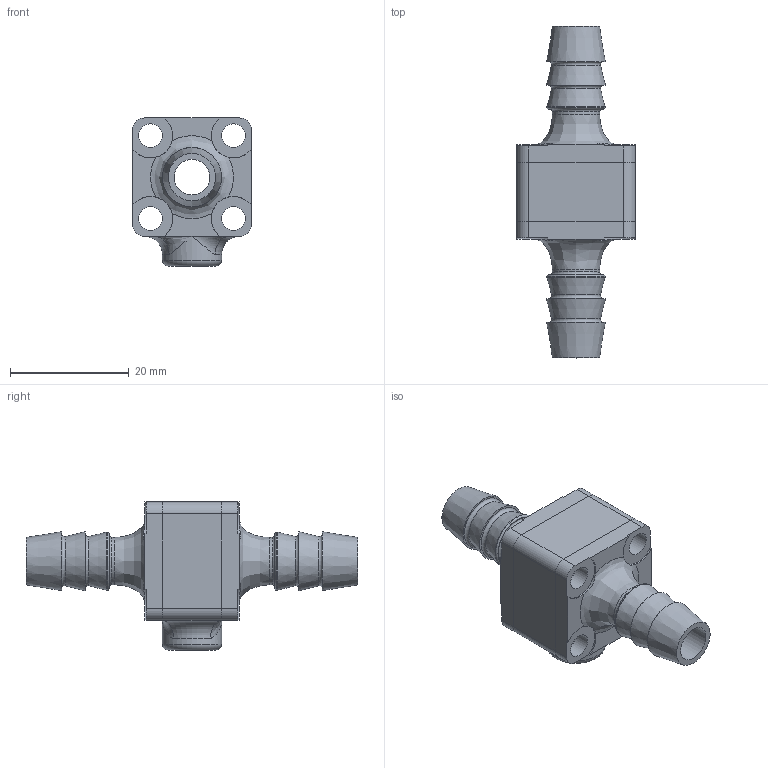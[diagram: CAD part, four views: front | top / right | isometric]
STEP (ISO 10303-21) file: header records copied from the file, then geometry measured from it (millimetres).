
FILE_DESCRIPTION(('HOOPS Exchange Step'),'2;1');
FILE_NAME('/private/var/mobile/Containers/Data/Application/6A221F3C-4013-4CF2-BF10-266E8049BE3B/tmp/export/temp_export.step','2019-09-11T18:17:27+03:00',('mobile'),('Shapr3D Limited'),'HOOPS Exchange 2018.1','Shapr3D','Authorized');
FILE_SCHEMA( ('AP203_CONFIGURATION_CONTROLLED_3D_DESIGN_OF_MECHANICAL_PARTS_AND_ASSEMBLIES_MIM_LF') );
Length unit declared in the file: millimetre
Products named in the file (1): /private/var/mobile/Containers/Data/Application/6A221F3C-4013-4CF2-BF10-266E8049BE3B/tmp/export/temp_export.x_b
Bounding box: 20 x 56 x 25 mm (x, y, z)
Volume: 4943.5 mm3; surface area: 6304.2 mm2
Topology: 3 solids, 3 shells, 112 faces, 315 edges, 211 vertices
Faces by surface type: plane 44, cylinder 39, torus 15, cone 8, bspline 6
Full cylindrical faces by diameter (mm): 4 x12, 6 x2, 6.5 x1, 8 x2, 10 x1, 14 x1
Entity records: 7070 total; most frequent: CARTESIAN_POINT 4011, DIRECTION 659, ORIENTED_EDGE 622, EDGE_CURVE 311, AXIS2_PLACEMENT_3D 272, VERTEX_POINT 211, CIRCLE 165, EDGE_LOOP 150
